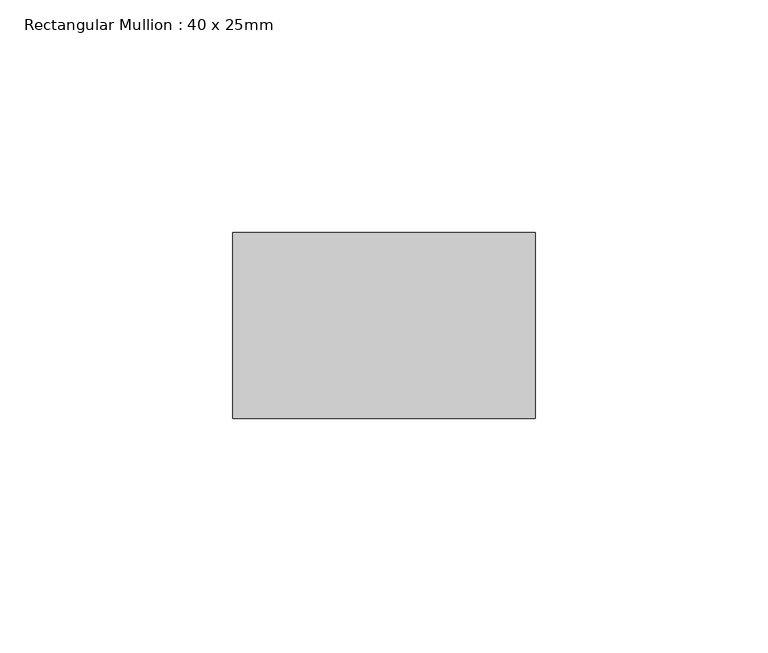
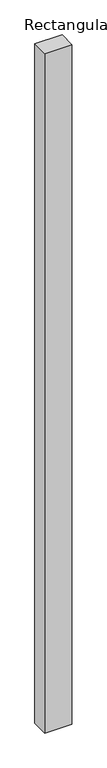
"""IFC4 building model written with IfcOpenShell, lengths in millimetres: member geometry, Rectangular Mullion : 40 x 25mm."""

import ifcopenshell
import ifcopenshell.guid

model = None  # the IFC model being written
_history = None  # IfcOwnerHistory: only IFC2X3 demands one
_inside = {}  # id of a spatial element -> (the spatial element, [elements in it])
_under = {}  # id of a project, library or spatial element -> (it, [spatial elements below it])
_declared = {}  # id of a project -> (the project, [libraries it declares])
_typed = {}  # id of a type object -> (the type object, [elements of that type])
_made_of = {}  # id of a material, layer set ... -> (it, [elements and type objects made of it])


def new_model(schema):
    """Start an empty IFC model of exactly this schema.

    Asked for "IFC4X3", IfcOpenShell would pick the latest addendum, in which some entities
    have other attributes; the version numbers below select the first issue.
    IFC2X3 requires an IfcOwnerHistory on every rooted entity: one is made here for all.
    """
    global model, _history
    if schema == "IFC4X3":
        model = ifcopenshell.file(schema_version=(4, 3, 0, 0))
    else:
        model = ifcopenshell.file(schema=schema)
    _inside.clear()
    _under.clear()
    _declared.clear()
    _typed.clear()
    _made_of.clear()
    _history = None
    if model.schema == "IFC2X3":
        org = make("IfcOrganization", Name="unknown")
        user = make(
            "IfcPersonAndOrganization",
            ThePerson=make("IfcPerson", FamilyName="unknown"),
            TheOrganization=org,
        )
        app = make(
            "IfcApplication",
            ApplicationDeveloper=org,
            Version="unknown",
            ApplicationFullName="unknown",
            ApplicationIdentifier="unknown",
        )
        _history = make(
            "IfcOwnerHistory",
            OwningUser=user,
            OwningApplication=app,
            ChangeAction="ADDED",
            CreationDate=0,
        )
    return model


def make(cls, **values):
    """One entity of the class cls with the attributes given. An attribute that is None is left unset."""
    return model.create_entity(
        cls, **{name: value for name, value in values.items() if value is not None}
    )


def rooted(cls, **values):
    """An entity with a GlobalId (a new one), such as an element, a storey or a relation."""
    return make(cls, GlobalId=ifcopenshell.guid.new(), OwnerHistory=_history, **values)


def si_unit(unit_type, name, prefix=None):
    """IfcSIUnit, for example si_unit("LENGTHUNIT", "METRE", prefix="MILLI")."""
    return make("IfcSIUnit", UnitType=unit_type, Prefix=prefix, Name=name)


def assignment(units):
    """IfcUnitAssignment: the units of a project."""
    return None if units is None else make("IfcUnitAssignment", Units=units)


def point(xyz):
    """IfcCartesianPoint."""
    return None if xyz is None else make("IfcCartesianPoint", Coordinates=xyz)


def direction(xyz):
    """IfcDirection."""
    return None if xyz is None else make("IfcDirection", DirectionRatios=xyz)


def frame(location, z_axis=None, x_axis=None):
    """IfcAxis2Placement3D, a coordinate frame: its origin and axes. An axis left out is left unset."""
    return make(
        "IfcAxis2Placement3D",
        Location=point(location),
        Axis=direction(z_axis),
        RefDirection=direction(x_axis),
    )


def origin():
    """The frame at (0, 0, 0) with its axes left unset."""
    return frame((0.0, 0.0, 0.0))


def place(relative_to, where):
    """IfcLocalPlacement: puts the frame where relative to a parent placement (None: the world)."""
    return make(
        "IfcLocalPlacement", PlacementRelTo=relative_to, RelativePlacement=where
    )


def context(
    kind, dimensions, precision=None, world=None, true_north=None, identifier=None
):
    """IfcGeometricRepresentationContext, for example the 3D "Model" context."""
    return make(
        "IfcGeometricRepresentationContext",
        ContextIdentifier=identifier,
        ContextType=kind,
        CoordinateSpaceDimension=dimensions,
        Precision=precision,
        WorldCoordinateSystem=world,
        TrueNorth=true_north,
    )


def project(units=None, contexts=None):
    """IfcProject with its units and contexts."""
    return rooted(
        "IfcProject",
        Name="project",
        RepresentationContexts=contexts,
        UnitsInContext=assignment(units),
    )


def spatial(cls, under=None, at=None, **own):
    """A site, building, storey or space (cls), placed at a placement, below another one or the project."""
    s = rooted(cls, ObjectPlacement=at, **own)
    if under is not None:
        _under.setdefault(under.id(), (under, []))[1].append(s)
    return s


def polyline(points):
    """IfcPolyline through the points."""
    return make("IfcPolyline", Points=[point(p) for p in points])


def outline(outer, holes=None, kind="AREA"):
    """IfcArbitraryClosedProfileDef: a profile drawn as a closed curve; with holes, ...WithVoids."""
    if holes is None:
        return make("IfcArbitraryClosedProfileDef", ProfileType=kind, OuterCurve=outer)
    return make(
        "IfcArbitraryProfileDefWithVoids",
        ProfileType=kind,
        OuterCurve=outer,
        InnerCurves=holes,
    )


def extrude(swept, where, along, depth):
    """IfcExtrudedAreaSolid: the profile swept, set in the frame where, extruded along a direction by depth."""
    return make(
        "IfcExtrudedAreaSolid",
        SweptArea=swept,
        Position=where,
        ExtrudedDirection=direction(along),
        Depth=depth,
    )


def shape(context_of_items, identifier, shape_type, items):
    """IfcShapeRepresentation: the items that make up one representation, for example the "Body"."""
    return make(
        "IfcShapeRepresentation",
        ContextOfItems=context_of_items,
        RepresentationIdentifier=identifier,
        RepresentationType=shape_type,
        Items=items,
    )


def source(mapping_origin, context_of_items, identifier, shape_type, items):
    """IfcRepresentationMap: a shape defined once, which mapped items show again and again."""
    return make(
        "IfcRepresentationMap",
        MappingOrigin=mapping_origin,
        MappedRepresentation=shape(context_of_items, identifier, shape_type, items),
    )


def transform(
    local_origin,
    x_axis=None,
    y_axis=None,
    z_axis=None,
    scale=None,
    scale2=None,
    scale3=None,
    uniform=True,
):
    """IfcCartesianTransformationOperator3D, or its non-uniform kind. x_axis, y_axis, z_axis: its Axis1, 2, 3."""
    if uniform:
        return make(
            "IfcCartesianTransformationOperator3D",
            Axis1=direction(x_axis),
            Axis2=direction(y_axis),
            LocalOrigin=point(local_origin),
            Scale=scale,
            Axis3=direction(z_axis),
        )
    return make(
        "IfcCartesianTransformationOperator3DnonUniform",
        Axis1=direction(x_axis),
        Axis2=direction(y_axis),
        LocalOrigin=point(local_origin),
        Scale=scale,
        Axis3=direction(z_axis),
        Scale2=scale2,
        Scale3=scale3,
    )


def mapped(mapping_source, mapping_target):
    """IfcMappedItem: shows the shape of a source again, moved by a transform."""
    return make(
        "IfcMappedItem", MappingSource=mapping_source, MappingTarget=mapping_target
    )


def made_of(thing, what):
    """Note that an element or type object is made of a material, layer set ...; save() writes the relation."""
    if what is not None:
        _made_of.setdefault(what.id(), (what, []))[1].append(thing)
    return thing


def element(
    cls,
    number,
    at=None,
    inside=None,
    cuts=None,
    type_object=None,
    material=None,
    context=None,
    identifier="Body",
    shape_type=None,
    held_by="IfcProductDefinitionShape",
    body=None,
    shapes=None,
    **own,
):
    """One element of the class cls, such as IfcWall. Its Tag is "e" and its number.

    at: its placement. inside: the storey or other place that contains it. cuts: it is an
    opening in that element (IfcRelVoidsElement). A single representation is given by context,
    identifier, shape_type and body (its items); several are given by shapes. held_by: the class
    of the entity that holds the representations. save() writes the other relations.
    """
    e = rooted(cls, Tag="e%d" % number, ObjectPlacement=at, **own)
    if body is not None:
        shapes = [shape(context, identifier, shape_type, body)]
    if shapes is not None:
        e.Representation = make(held_by, Representations=shapes)
    if inside is not None:
        _inside.setdefault(inside.id(), (inside, []))[1].append(e)
    if cuts is not None:
        rooted(
            "IfcRelVoidsElement", RelatingBuildingElement=cuts, RelatedOpeningElement=e
        )
    if type_object is not None:
        _typed.setdefault(type_object.id(), (type_object, []))[1].append(e)
    return made_of(e, material)


def aggregate(whole, parts):
    """IfcRelAggregates: a whole, such as a stair, and the parts it consists of."""
    return rooted("IfcRelAggregates", RelatingObject=whole, RelatedObjects=parts)


def save(model, path):
    """Write the relations noted so far, then the file.

    IfcRelAggregates (storeys below a building ...), IfcRelContainedInSpatialStructure (elements
    in a storey), IfcRelDefinesByType, IfcRelAssociatesMaterial and IfcRelDeclares: one each for
    every whole, place, type object, material and project.
    """
    for whole, parts in _under.values():
        aggregate(whole, parts)
    for where, things in _inside.values():
        rooted(
            "IfcRelContainedInSpatialStructure",
            RelatedElements=things,
            RelatingStructure=where,
        )
    for kind, things in _typed.values():
        rooted("IfcRelDefinesByType", RelatedObjects=things, RelatingType=kind)
    for what, things in _made_of.values():
        rooted("IfcRelAssociatesMaterial", RelatedObjects=things, RelatingMaterial=what)
    for by, libraries in _declared.values():
        rooted("IfcRelDeclares", RelatingContext=by, RelatedDefinitions=libraries)
    model.write(path)


def rectangular_mullion_40_x_25mm_3032383b(model_context):
    return source(origin(), model_context, "Body", "SweptSolid", [
        extrude(outline(polyline([(0.0, -20.0), (0.0, -60.0), (-65.0, -60.0), (-65.0, -20.0), (0.0, -20.0)])), frame((0.0, 0.0, -1716.2589444), z_axis=(0.0, 0.0, 1.0), x_axis=(1.0, 0.0, 0.0)), (0.0, 0.0, 1.0), 1716.2589444),
    ])


if __name__ == "__main__":
    model = new_model("IFC4")
    model_context = context("Model", 3, world=origin())
    ifc_project = project(units=[si_unit("LENGTHUNIT", "METRE", prefix="MILLI")], contexts=[model_context])
    site = spatial("IfcSite", under=ifc_project)
    building = spatial("IfcBuilding", under=site)
    placement = place(None, origin())
    rectangular_mullion_40_x_25mm_shape = rectangular_mullion_40_x_25mm_3032383b(model_context)
    element("IfcMember", 1, ObjectType="Rectangular Mullion : 40 x 25mm", at=placement, inside=building, context=model_context, shape_type="MappedRepresentation", body=[
        mapped(rectangular_mullion_40_x_25mm_shape, transform((0.0, 0.0, 0.0), x_axis=(1.0, 0.0, 0.0), y_axis=(0.0, 1.0, 0.0), z_axis=(0.0, 0.0, 1.0))),
    ])
    save(model, "model.ifc")
